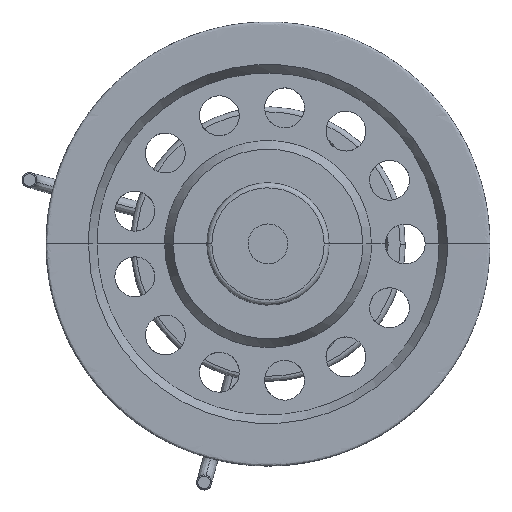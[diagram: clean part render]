
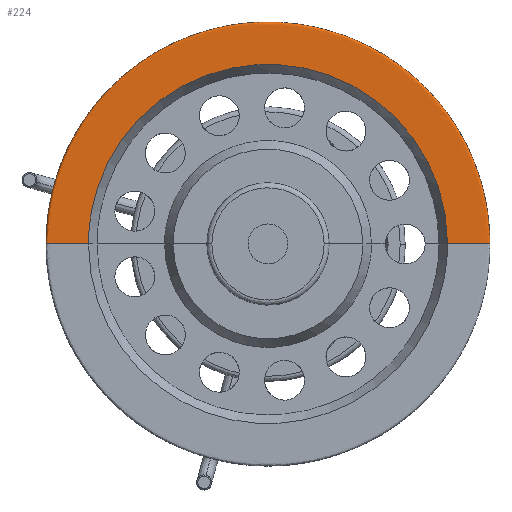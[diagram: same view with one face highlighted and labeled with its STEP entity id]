
A CAD part, top view. The second image highlights one B-rep face of the part: STEP entity #224.
In plain terms, the highlighted free-form (B-spline) face has degree [2, 2] with [9, 5] control points.
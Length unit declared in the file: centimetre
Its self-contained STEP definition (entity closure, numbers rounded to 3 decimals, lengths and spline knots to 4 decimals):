
#224=ADVANCED_FACE($,(#413),#2308,.T.);
#413=FACE_OUTER_BOUND($,#621,.T.);
#621=EDGE_LOOP($,(#1048,#1049,#1050,#1051));
#1048=ORIENTED_EDGE($,*,*,#1761,.F.);
#1049=ORIENTED_EDGE($,*,*,#1746,.T.);
#1050=ORIENTED_EDGE($,*,*,#1744,.T.);
#1051=ORIENTED_EDGE($,*,*,#1822,.F.);
#1744=EDGE_CURVE($,#2107,#2155,#2511,.T.);
#1746=EDGE_CURVE($,#2108,#2107,#2513,.T.);
#1761=EDGE_CURVE($,#2108,#2154,#2521,.T.);
#1822=EDGE_CURVE($,#2154,#2155,#2556,.T.);
#2107=VERTEX_POINT($,#6819);
#2108=VERTEX_POINT($,#6820);
#2154=VERTEX_POINT($,#6866);
#2155=VERTEX_POINT($,#6867);
#2308=(
BOUNDED_SURFACE()
B_SPLINE_SURFACE(2,2,((#6026,#6027,#6028,#6029,#6030),(#6031,#6032,#6033,
#6034,#6035),(#6036,#6037,#6038,#6039,#6040),(#6041,#6042,#6043,#6044,#6045),
(#6046,#6047,#6048,#6049,#6050),(#6051,#6052,#6053,#6054,#6055),(#6056,#6057,
#6058,#6059,#6060),(#6061,#6062,#6063,#6064,#6065),(#6066,#6067,#6068,#6069,
#6070)),.UNSPECIFIED.,.F.,.F.,.F.)
B_SPLINE_SURFACE_WITH_KNOTS((3,2,2,2,3),(3,2,3),(238.5272,254.5272,
256.098,256.5654,257.6565),(0.,1.5708,
3.1416),.UNSPECIFIED.)
GEOMETRIC_REPRESENTATION_ITEM()
RATIONAL_B_SPLINE_SURFACE(((1.,0.707,1.,0.707,1.),
(1.,0.707,1.,0.707,1.),(1.,0.707,1.,
0.707,1.),(0.707,0.5,0.707,0.5,0.707),
(1.,0.707,1.,0.707,1.),(1.,0.707,1.,
0.707,1.),(1.,0.707,1.,0.707,1.),(0.855,
0.604,0.855,0.604,0.855),
(1.,0.707,1.,0.707,1.)))
REPRESENTATION_ITEM($)
SURFACE()
);
#2511=(
BOUNDED_CURVE()
B_SPLINE_CURVE(2,(#5318,#5319,#5320,#5321,#5322),.UNSPECIFIED.,.F.,.F.)
B_SPLINE_CURVE_WITH_KNOTS((3,2,3),(0.,1.5708,3.1416),
.UNSPECIFIED.)
CURVE()
GEOMETRIC_REPRESENTATION_ITEM()
RATIONAL_B_SPLINE_CURVE((1.,0.707,1.,0.707,1.))
REPRESENTATION_ITEM($)
);
#2513=(
BOUNDED_CURVE()
B_SPLINE_CURVE(2,(#5336,#5337,#5338,#5339,#5340,#5341,#5342,#5343,#5344),
.UNSPECIFIED.,.F.,.F.)
B_SPLINE_CURVE_WITH_KNOTS((3,2,2,2,3),(238.5272,254.5272,256.098,
256.5654,257.6565),.UNSPECIFIED.)
CURVE()
GEOMETRIC_REPRESENTATION_ITEM()
RATIONAL_B_SPLINE_CURVE((1.,1.,1.,0.707,1.,1.,1.,0.855,
1.))
REPRESENTATION_ITEM($)
);
#2521=(
BOUNDED_CURVE()
B_SPLINE_CURVE(2,(#5406,#5407,#5408,#5409,#5410),.UNSPECIFIED.,.F.,.F.)
B_SPLINE_CURVE_WITH_KNOTS((3,2,3),(0.,1.5708,3.1416),
.UNSPECIFIED.)
CURVE()
GEOMETRIC_REPRESENTATION_ITEM()
RATIONAL_B_SPLINE_CURVE((1.,0.707,1.,0.707,1.))
REPRESENTATION_ITEM($)
);
#2556=(
BOUNDED_CURVE()
B_SPLINE_CURVE(2,(#5674,#5675,#5676,#5677,#5678,#5679,#5680,#5681,#5682),
.UNSPECIFIED.,.F.,.F.)
B_SPLINE_CURVE_WITH_KNOTS((3,2,2,2,3),(238.5272,254.5272,256.098,
256.5654,257.6565),.UNSPECIFIED.)
CURVE()
GEOMETRIC_REPRESENTATION_ITEM()
RATIONAL_B_SPLINE_CURVE((1.,1.,1.,0.707,1.,1.,1.,0.855,
1.))
REPRESENTATION_ITEM($)
);
#5318=CARTESIAN_POINT($,(15.2787,3.6898,35.6454));
#5319=CARTESIAN_POINT($,(15.2787,92.1514,35.6454));
#5320=CARTESIAN_POINT($,(-73.1829,92.1514,35.6454));
#5321=CARTESIAN_POINT($,(-161.6444,92.1514,35.6454));
#5322=CARTESIAN_POINT($,(-161.6444,3.6898,35.6454));
#5336=CARTESIAN_POINT($,(-1.1829,3.6898,38.));
#5337=CARTESIAN_POINT($,(6.8171,3.6898,38.));
#5338=CARTESIAN_POINT($,(14.8171,3.6898,38.));
#5339=CARTESIAN_POINT($,(15.8171,3.6898,38.));
#5340=CARTESIAN_POINT($,(15.8171,3.6898,37.));
#5341=CARTESIAN_POINT($,(15.8171,3.6898,36.7663));
#5342=CARTESIAN_POINT($,(15.8171,3.6898,36.5326));
#5343=CARTESIAN_POINT($,(15.8171,3.6898,35.9256));
#5344=CARTESIAN_POINT($,(15.2787,3.6898,35.6454));
#5406=CARTESIAN_POINT($,(-1.1829,3.6898,38.));
#5407=CARTESIAN_POINT($,(-1.1829,75.6898,38.));
#5408=CARTESIAN_POINT($,(-73.1829,75.6898,38.));
#5409=CARTESIAN_POINT($,(-145.1829,75.6898,38.));
#5410=CARTESIAN_POINT($,(-145.1829,3.6898,38.));
#5674=CARTESIAN_POINT($,(-145.1829,3.6898,38.));
#5675=CARTESIAN_POINT($,(-153.1829,3.6898,38.));
#5676=CARTESIAN_POINT($,(-161.1829,3.6898,38.));
#5677=CARTESIAN_POINT($,(-162.1829,3.6898,38.));
#5678=CARTESIAN_POINT($,(-162.1829,3.6898,37.));
#5679=CARTESIAN_POINT($,(-162.1829,3.6898,36.7663));
#5680=CARTESIAN_POINT($,(-162.1829,3.6898,36.5326));
#5681=CARTESIAN_POINT($,(-162.1829,3.6898,35.9256));
#5682=CARTESIAN_POINT($,(-161.6444,3.6898,35.6454));
#6026=CARTESIAN_POINT($,(-1.1829,3.6898,38.));
#6027=CARTESIAN_POINT($,(-1.1829,75.6898,38.));
#6028=CARTESIAN_POINT($,(-73.1829,75.6898,38.));
#6029=CARTESIAN_POINT($,(-145.1829,75.6898,38.));
#6030=CARTESIAN_POINT($,(-145.1829,3.6898,38.));
#6031=CARTESIAN_POINT($,(6.8171,3.6898,38.));
#6032=CARTESIAN_POINT($,(6.8171,83.6898,38.));
#6033=CARTESIAN_POINT($,(-73.1829,83.6898,38.));
#6034=CARTESIAN_POINT($,(-153.1829,83.6898,38.));
#6035=CARTESIAN_POINT($,(-153.1829,3.6898,38.));
#6036=CARTESIAN_POINT($,(14.8171,3.6898,38.));
#6037=CARTESIAN_POINT($,(14.8171,91.6898,38.));
#6038=CARTESIAN_POINT($,(-73.1829,91.6898,38.));
#6039=CARTESIAN_POINT($,(-161.1829,91.6898,38.));
#6040=CARTESIAN_POINT($,(-161.1829,3.6898,38.));
#6041=CARTESIAN_POINT($,(15.8171,3.6898,38.));
#6042=CARTESIAN_POINT($,(15.8171,92.6898,38.));
#6043=CARTESIAN_POINT($,(-73.1829,92.6898,38.));
#6044=CARTESIAN_POINT($,(-162.1829,92.6898,38.));
#6045=CARTESIAN_POINT($,(-162.1829,3.6898,38.));
#6046=CARTESIAN_POINT($,(15.8171,3.6898,37.));
#6047=CARTESIAN_POINT($,(15.8171,92.6898,37.));
#6048=CARTESIAN_POINT($,(-73.1829,92.6898,37.));
#6049=CARTESIAN_POINT($,(-162.1829,92.6898,37.));
#6050=CARTESIAN_POINT($,(-162.1829,3.6898,37.));
#6051=CARTESIAN_POINT($,(15.8171,3.6898,36.7663));
#6052=CARTESIAN_POINT($,(15.8171,92.6898,36.7663));
#6053=CARTESIAN_POINT($,(-73.1829,92.6898,36.7663));
#6054=CARTESIAN_POINT($,(-162.1829,92.6898,36.7663));
#6055=CARTESIAN_POINT($,(-162.1829,3.6898,36.7663));
#6056=CARTESIAN_POINT($,(15.8171,3.6898,36.5326));
#6057=CARTESIAN_POINT($,(15.8171,92.6898,36.5326));
#6058=CARTESIAN_POINT($,(-73.1829,92.6898,36.5326));
#6059=CARTESIAN_POINT($,(-162.1829,92.6898,36.5326));
#6060=CARTESIAN_POINT($,(-162.1829,3.6898,36.5326));
#6061=CARTESIAN_POINT($,(15.8171,3.6898,35.9256));
#6062=CARTESIAN_POINT($,(15.8171,92.6898,35.9256));
#6063=CARTESIAN_POINT($,(-73.1829,92.6898,35.9256));
#6064=CARTESIAN_POINT($,(-162.1829,92.6898,35.9256));
#6065=CARTESIAN_POINT($,(-162.1829,3.6898,35.9256));
#6066=CARTESIAN_POINT($,(15.2787,3.6898,35.6454));
#6067=CARTESIAN_POINT($,(15.2787,92.1514,35.6454));
#6068=CARTESIAN_POINT($,(-73.1829,92.1514,35.6454));
#6069=CARTESIAN_POINT($,(-161.6444,92.1514,35.6454));
#6070=CARTESIAN_POINT($,(-161.6444,3.6898,35.6454));
#6819=CARTESIAN_POINT($,(15.2787,3.6898,35.6454));
#6820=CARTESIAN_POINT($,(-1.1829,3.6898,38.));
#6866=CARTESIAN_POINT($,(-145.1829,3.6898,38.));
#6867=CARTESIAN_POINT($,(-161.6444,3.6898,35.6454));
